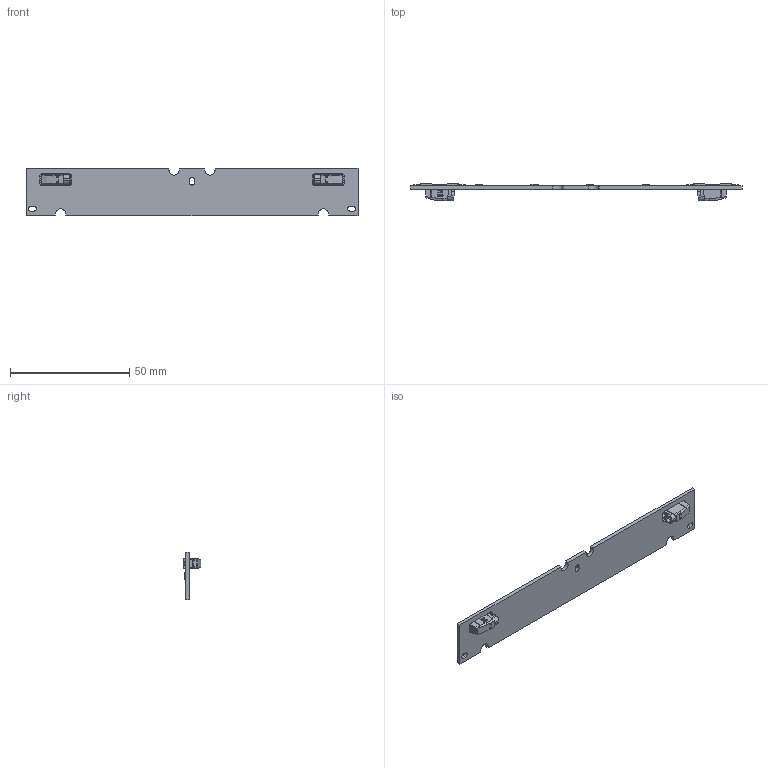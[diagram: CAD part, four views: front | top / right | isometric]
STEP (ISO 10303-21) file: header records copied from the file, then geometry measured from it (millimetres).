
FILE_DESCRIPTION (( 'STEP AP214' ), '1' );
FILE_NAME ('WU-M-580-BC.STEP', '2017-09-08T06:18:15', ( 'Admin' ), ( 'Microsoft' ), 'SwSTEP 2.0', 'SolidWorks 2017', '' );
FILE_SCHEMA (( 'AUTOMOTIVE_DESIGN' ));
Length unit declared in the file: millimetre
Products named in the file (19): VSO-Logo-3mm; CE-Zeichen-4mm; WU-M-580 PCB; WU-M-580-BC; 46_111_1001; STW8C2PB-E1; Built-In LED Module-4mm
Assembly tree (12 placements, depth 2):
  VSO-Logo-3mm
  CE-Zeichen-4mm
  WU-M-580 PCB
  WU-M-580-BC
    WU-M-580 PCB
    CE-Zeichen-4mm
    VSO-Logo-3mm
    Built-In LED Module-4mm
    STW8C2PB-E1  x6
    46_111_1001  x2
  46_111_1001
Bounding box: 139 x 7.43 x 20 mm (x, y, z)
Volume: 4486.9 mm3; surface area: 7234.5 mm2
Topology: 18 solids, 18 shells, 2285 faces, 6111 edges, 4068 vertices
Faces by surface type: plane 1495, bspline 506, cylinder 284
Entity records: 93880 total; most frequent: CARTESIAN_POINT 40823, ORIENTED_EDGE 9132, DIRECTION 5573, EDGE_CURVE 4566, VERTEX_POINT 3042, LINE 2721, VECTOR 2721, EDGE_LOOP 1856
